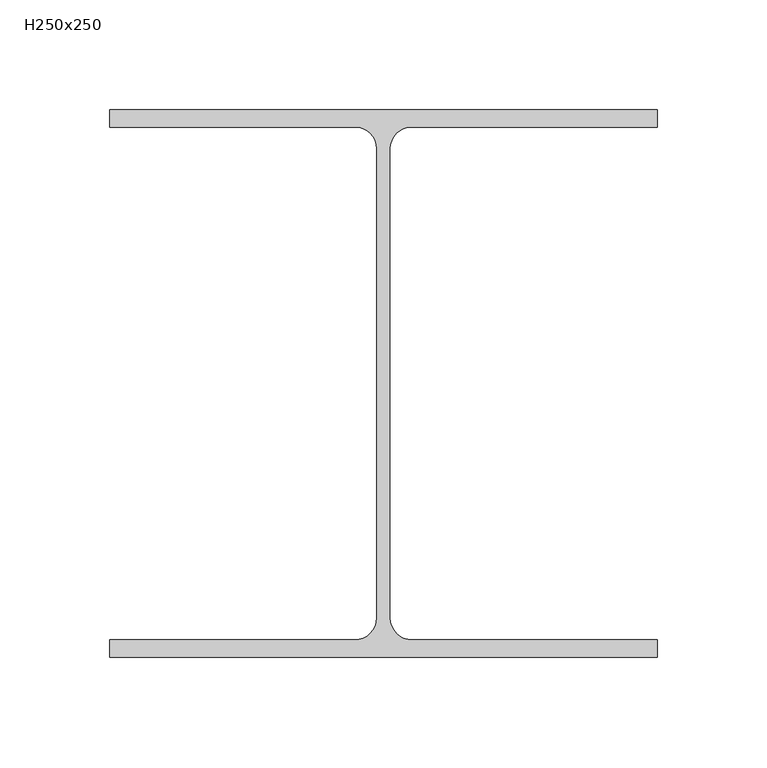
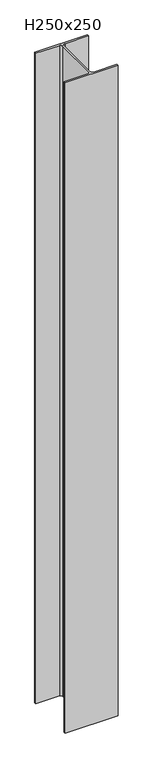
"""IFC4 building model written with IfcOpenShell, lengths in millimetres: column geometry, H型鋼柱 : H250x250."""

from ifc_helpers import new_model, si_unit, point, frame, frame_2d, origin, place, context, project, spatial, polyline, circle_curve, trimmed, segment, composite_curve, outline, extrude, source, transform, mapped, element, save


def h250x250_75dbfd1a(model_context):
    return source(origin(), model_context, "Body", "SweptSolid", [
        extrude(outline(composite_curve([segment(polyline([(125.0, 125.0), (125.0, 117.0), (13.0, 117.0)]), True, "CONTINUOUS"), segment(trimmed(circle_curve(frame_2d((13.0, 107.0)), 10.0), [point((13.0, 117.0))], [point((3.0, 107.0))], True, "CARTESIAN"), True, "CONTINUOUS"), segment(polyline([(3.0, 107.0), (3.0, -107.0)]), True, "CONTINUOUS"), segment(trimmed(circle_curve(frame_2d((13.0, -107.0)), 10.0), [point((3.0, -107.0))], [point((13.0, -117.0))], True, "CARTESIAN"), True, "CONTINUOUS"), segment(polyline([(13.0, -117.0), (125.0, -117.0), (125.0, -125.0), (-125.0, -125.0), (-125.0, -117.0), (-13.0, -117.0)]), True, "CONTINUOUS"), segment(trimmed(circle_curve(frame_2d((-13.0, -107.0)), 10.0), [point((-13.0, -117.0))], [point((-3.0, -107.0))], True, "CARTESIAN"), True, "CONTINUOUS"), segment(polyline([(-3.0, -107.0), (-3.0, 107.0)]), True, "CONTINUOUS"), segment(trimmed(circle_curve(frame_2d((-13.0, 107.0)), 10.0), [point((-3.0, 107.0))], [point((-13.0, 117.0))], True, "CARTESIAN"), True, "CONTINUOUS"), segment(polyline([(-13.0, 117.0), (-125.0, 117.0), (-125.0, 125.0), (125.0, 125.0)]), True, "CONTINUOUS")], self_intersect=False)), frame((0.0, 0.0, 3450.0), z_axis=(0.0, 0.0, 1.0), x_axis=(1.0, 0.0, 0.0)), (0.0, 0.0, 1.0), 3250.0),
    ])


if __name__ == "__main__":
    model = new_model("IFC4")
    model_context = context("Model", 3, world=origin())
    ifc_project = project(units=[si_unit("LENGTHUNIT", "METRE", prefix="MILLI")], contexts=[model_context])
    site = spatial("IfcSite", under=ifc_project)
    building = spatial("IfcBuilding", under=site)
    placement = place(None, origin())
    h250x250_shape = h250x250_75dbfd1a(model_context)
    element("IfcColumn", 1, ObjectType="H型鋼柱 : H250x250", at=placement, inside=building, context=model_context, shape_type="MappedRepresentation", body=[
        mapped(h250x250_shape, transform((0.0, 0.0, 0.0), x_axis=(1.0, 0.0, 0.0), y_axis=(0.0, 1.0, 0.0), z_axis=(0.0, 0.0, 1.0))),
    ])
    save(model, "model.ifc")
